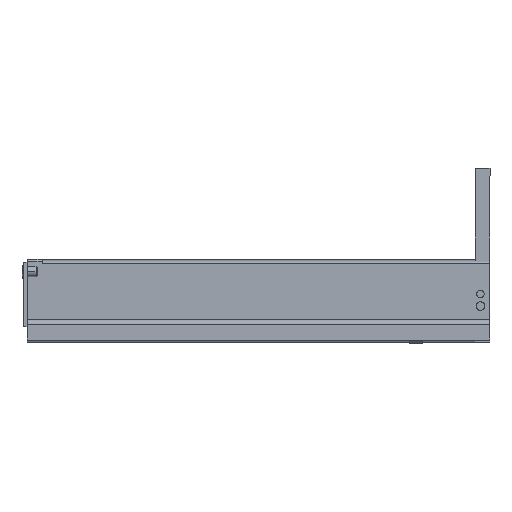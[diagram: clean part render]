
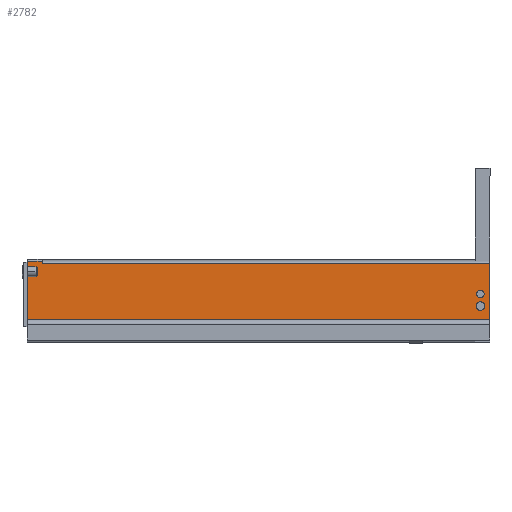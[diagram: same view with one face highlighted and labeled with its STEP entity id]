
A CAD part, left-side view. The second image highlights one B-rep face of the part: STEP entity #2782.
In plain terms, the highlighted planar face has unit normal (-1, 0, 0).
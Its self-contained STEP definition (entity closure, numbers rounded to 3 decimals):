
#26 = EDGE_CURVE ( 'NONE', #2055, #2051, #2203, .T. ) ;
#74 = EDGE_CURVE ( 'NONE', #1454, #2051, #2295, .T. ) ;
#78 = EDGE_CURVE ( 'NONE', #1998, #2036, #2302, .T. ) ;
#79 = EDGE_CURVE ( 'NONE', #1998, #1454, #2304, .T. ) ;
#80 = EDGE_CURVE ( 'NONE', #2015, #2055, #2306, .T. ) ;
#81 = EDGE_CURVE ( 'NONE', #2015, #2036, #2308, .T. ) ;
#82 = EDGE_CURVE ( 'NONE', #1955, #1953, #2310, .T. ) ;
#83 = EDGE_CURVE ( 'NONE', #1933, #1954, #2312, .T. ) ;
#171 = AXIS2_PLACEMENT_3D ( 'NONE', #472, #473, #474 ) ;
#172 = AXIS2_PLACEMENT_3D ( 'NONE', #475, #476, #477 ) ;
#200 = AXIS2_PLACEMENT_3D ( 'NONE', #676, #677, #678 ) ;
#205 = AXIS2_PLACEMENT_3D ( 'NONE', #701, #702, #703 ) ;
#290 = AXIS2_PLACEMENT_3D ( 'NONE', #1272, #1273, #1274 ) ;
#354 = CARTESIAN_POINT ( 'NONE',  ( -21.5, 0., 68. ) ) ;
#355 = DIRECTION ( 'NONE',  ( 0., 0., -1. ) ) ;
#455 = CARTESIAN_POINT ( 'NONE',  ( -21.5, 497., 5.395 ) ) ;
#456 = DIRECTION ( 'NONE',  ( 0., -1., 0. ) ) ;
#464 = CARTESIAN_POINT ( 'NONE',  ( -21.5, 497., 68. ) ) ;
#465 = DIRECTION ( 'NONE',  ( 0., -1., 0. ) ) ;
#466 = CARTESIAN_POINT ( 'NONE',  ( -21.5, 497., 5.395 ) ) ;
#467 = DIRECTION ( 'NONE',  ( 0., 0., -1. ) ) ;
#468 = CARTESIAN_POINT ( 'NONE',  ( -21.5, 512.981, 66.06 ) ) ;
#469 = DIRECTION ( 'NONE',  ( 0., -1., 0. ) ) ;
#470 = CARTESIAN_POINT ( 'NONE',  ( -21.5, 480.9, 68. ) ) ;
#471 = DIRECTION ( 'NONE',  ( 0., 0., 1. ) ) ;
#472 = CARTESIAN_POINT ( 'NONE',  ( -21.5, 10.4, 33. ) ) ;
#473 = DIRECTION ( 'NONE',  ( 1., 0., 0. ) ) ;
#474 = DIRECTION ( 'NONE',  ( 0., 0., -1. ) ) ;
#475 = CARTESIAN_POINT ( 'NONE',  ( -21.5, 10.4, 20. ) ) ;
#476 = DIRECTION ( 'NONE',  ( 1., 0., 0. ) ) ;
#477 = DIRECTION ( 'NONE',  ( 0., 0., -1. ) ) ;
#676 = CARTESIAN_POINT ( 'NONE',  ( -21.5, 10.4, 20. ) ) ;
#677 = DIRECTION ( 'NONE',  ( 1., 0., 0. ) ) ;
#678 = DIRECTION ( 'NONE',  ( 0., 0., -1. ) ) ;
#701 = CARTESIAN_POINT ( 'NONE',  ( -21.5, 10.4, 33. ) ) ;
#702 = DIRECTION ( 'NONE',  ( 1., 0., 0. ) ) ;
#703 = DIRECTION ( 'NONE',  ( 0., 0., -1. ) ) ;
#854 = CARTESIAN_POINT ( 'NONE',  ( -21.5, 497., 5.395 ) ) ;
#867 = CARTESIAN_POINT ( 'NONE',  ( -21.5, 10.4, 15.4 ) ) ;
#887 = CARTESIAN_POINT ( 'NONE',  ( -21.5, 10.4, 37.1 ) ) ;
#888 = CARTESIAN_POINT ( 'NONE',  ( -21.5, 10.4, 24.6 ) ) ;
#889 = CARTESIAN_POINT ( 'NONE',  ( -21.5, 10.4, 28.9 ) ) ;
#932 = CARTESIAN_POINT ( 'NONE',  ( -21.5, 497., 68. ) ) ;
#949 = CARTESIAN_POINT ( 'NONE',  ( -21.5, 480.9, 66.06 ) ) ;
#970 = CARTESIAN_POINT ( 'NONE',  ( -21.5, 480.9, 68. ) ) ;
#985 = CARTESIAN_POINT ( 'NONE',  ( -21.5, 0., 5.395 ) ) ;
#989 = CARTESIAN_POINT ( 'NONE',  ( -21.5, 0., 66.06 ) ) ;
#1271 = PLANE ( 'NONE',  #290 ) ;
#1272 = CARTESIAN_POINT ( 'NONE',  ( -21.5, 497., 68. ) ) ;
#1273 = DIRECTION ( 'NONE',  ( -1., 0., 0. ) ) ;
#1274 = DIRECTION ( 'NONE',  ( 0., 0., -1. ) ) ;
#1355 = EDGE_CURVE ( 'NONE', #1954, #1933, #2456, .T. ) ;
#1365 = EDGE_CURVE ( 'NONE', #1953, #1955, #2471, .T. ) ;
#1454 = VERTEX_POINT ( 'NONE', #854 ) ;
#1497 = ORIENTED_EDGE ( 'NONE', *, *, #80, .F. ) ;
#1537 = ORIENTED_EDGE ( 'NONE', *, *, #1355, .T. ) ;
#1538 = ORIENTED_EDGE ( 'NONE', *, *, #83, .T. ) ;
#1543 = ORIENTED_EDGE ( 'NONE', *, *, #74, .T. ) ;
#1544 = ORIENTED_EDGE ( 'NONE', *, *, #26, .F. ) ;
#1566 = ORIENTED_EDGE ( 'NONE', *, *, #79, .T. ) ;
#1567 = ORIENTED_EDGE ( 'NONE', *, *, #78, .F. ) ;
#1755 = ORIENTED_EDGE ( 'NONE', *, *, #82, .T. ) ;
#1774 = EDGE_LOOP ( 'NONE', ( #1567, #1566, #1543, #1544, #1497, #1802 ) ) ;
#1797 = EDGE_LOOP ( 'NONE', ( #1755, #1808 ) ) ;
#1802 = ORIENTED_EDGE ( 'NONE', *, *, #81, .T. ) ;
#1808 = ORIENTED_EDGE ( 'NONE', *, *, #1365, .T. ) ;
#1813 = EDGE_LOOP ( 'NONE', ( #1538, #1537 ) ) ;
#1933 = VERTEX_POINT ( 'NONE', #867 ) ;
#1953 = VERTEX_POINT ( 'NONE', #887 ) ;
#1954 = VERTEX_POINT ( 'NONE', #888 ) ;
#1955 = VERTEX_POINT ( 'NONE', #889 ) ;
#1998 = VERTEX_POINT ( 'NONE', #932 ) ;
#2015 = VERTEX_POINT ( 'NONE', #949 ) ;
#2036 = VERTEX_POINT ( 'NONE', #970 ) ;
#2051 = VERTEX_POINT ( 'NONE', #985 ) ;
#2055 = VERTEX_POINT ( 'NONE', #989 ) ;
#2203 = LINE ( 'NONE', #354, #2205 ) ;
#2205 = VECTOR ( 'NONE', #355, 1000. ) ;
#2295 = LINE ( 'NONE', #455, #2296 ) ;
#2296 = VECTOR ( 'NONE', #456, 1000. ) ;
#2302 = LINE ( 'NONE', #464, #2303 ) ;
#2303 = VECTOR ( 'NONE', #465, 1000. ) ;
#2304 = LINE ( 'NONE', #466, #2305 ) ;
#2305 = VECTOR ( 'NONE', #467, 1000. ) ;
#2306 = LINE ( 'NONE', #468, #2307 ) ;
#2307 = VECTOR ( 'NONE', #469, 1000. ) ;
#2308 = LINE ( 'NONE', #470, #2309 ) ;
#2309 = VECTOR ( 'NONE', #471, 1000. ) ;
#2310 = CIRCLE ( 'NONE', #171, 4.1 ) ;
#2312 = CIRCLE ( 'NONE', #172, 4.6 ) ;
#2456 = CIRCLE ( 'NONE', #200, 4.6 ) ;
#2471 = CIRCLE ( 'NONE', #205, 4.1 ) ;
#2681 = FACE_OUTER_BOUND ( 'NONE', #1774, .T. ) ;
#2682 = FACE_BOUND ( 'NONE', #1797, .T. ) ;
#2683 = FACE_BOUND ( 'NONE', #1813, .T. ) ;
#2782 = ADVANCED_FACE ( 'NONE', ( #2681, #2682, #2683 ), #1271, .T. ) ;
